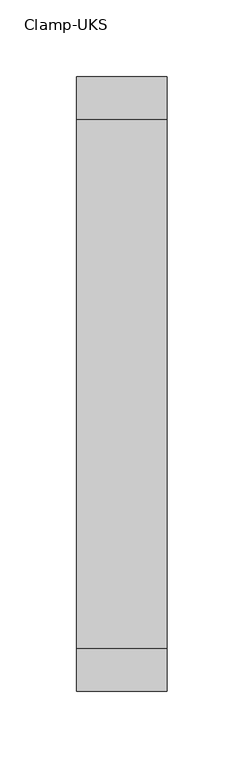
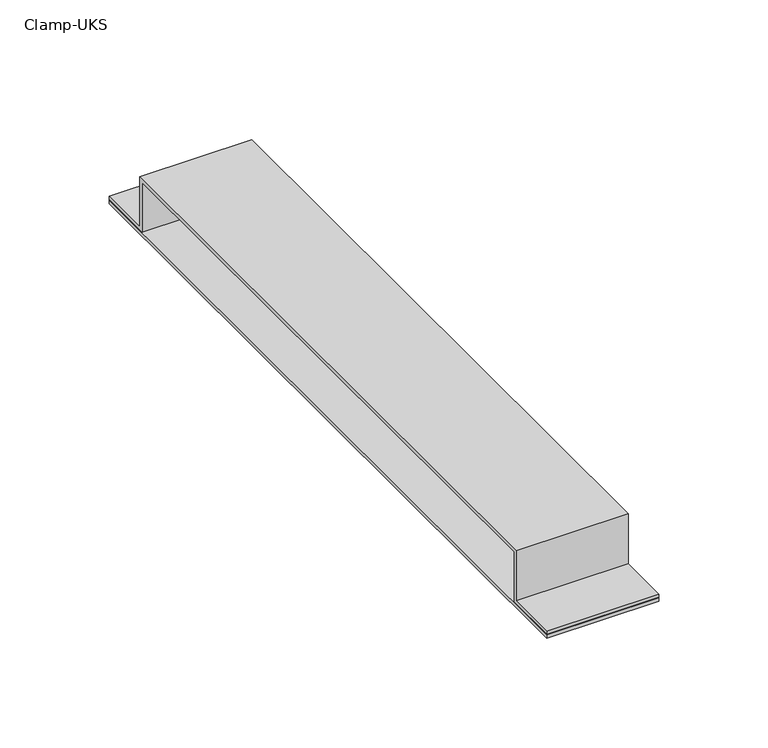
"""IFC4 building model written with IfcOpenShell, lengths in millimetres: cable carrier fitting geometry, Electrical-Installations_Hager_Clamp-UKS : Clamp-UKS."""

from ifc_helpers import new_model, si_unit, frame, origin, place, context, project, spatial, polyline, outline, extrude, source, transform, mapped, element, save


def clamp_uks_f8b6c40f(model_context):
    return source(origin(), model_context, "Body", "SweptSolid", [
        extrude(outline(polyline([(59.0, 200.0), (59.0, -200.0), (0.0, -200.0), (0.0, 200.0), (59.0, 200.0)])), frame((0.0, 0.0, -16.0), z_axis=(0.0, 0.0, 1.0), x_axis=(1.0, 0.0, 0.0)), (0.0, 0.0, 1.0), 2.0),
        extrude(outline(polyline([(170.0, 14.0), (-170.0, 14.0), (-170.0, -14.0), (-200.0, -14.0), (-200.0, -11.96), (-172.0, -11.96), (-172.0, 16.0), (172.0, 16.0), (172.0, -11.96), (200.0, -11.96), (200.0, -14.0), (170.0, -14.0), (170.0, 14.0)])), frame((0.0, 0.0, 0.0), z_axis=(1.0, 0.0, 0.0), x_axis=(0.0, 1.0, 0.0)), (0.0, 0.0, 1.0), 59.0),
    ])


if __name__ == "__main__":
    model = new_model("IFC4")
    model_context = context("Model", 3, world=origin())
    ifc_project = project(units=[si_unit("LENGTHUNIT", "METRE", prefix="MILLI")], contexts=[model_context])
    site = spatial("IfcSite", under=ifc_project)
    building = spatial("IfcBuilding", under=site)
    placement = place(None, origin())
    clamp_uks_shape = clamp_uks_f8b6c40f(model_context)
    element("IfcCableCarrierFitting", 1, ObjectType="Electrical-Installations_Hager_Clamp-UKS : Clamp-UKS", at=placement, inside=building, context=model_context, shape_type="MappedRepresentation", body=[
        mapped(clamp_uks_shape, transform((0.0, 0.0, 0.0), x_axis=(1.0, 0.0, 0.0), y_axis=(0.0, 1.0, 0.0), z_axis=(0.0, 0.0, 1.0))),
    ])
    save(model, "model.ifc")
